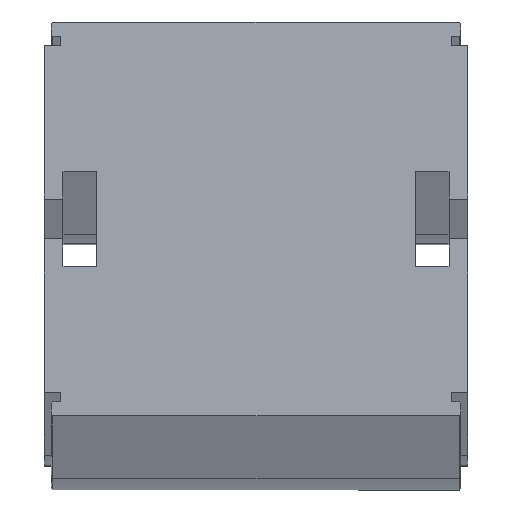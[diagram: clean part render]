
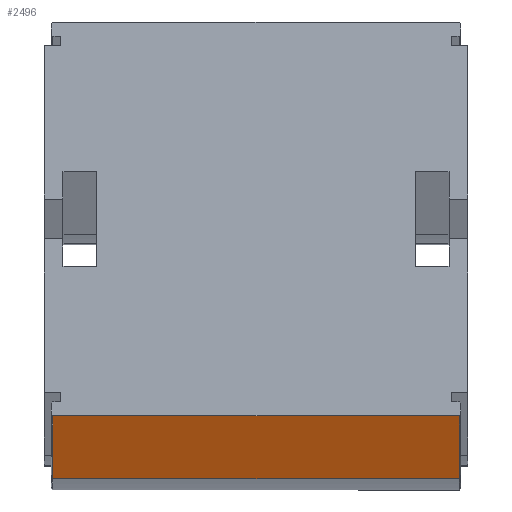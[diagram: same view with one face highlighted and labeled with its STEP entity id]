
A CAD part, top view. The second image highlights one B-rep face of the part: STEP entity #2496.
In plain terms, the highlighted planar face has unit normal (0, -0.996, 0.087).
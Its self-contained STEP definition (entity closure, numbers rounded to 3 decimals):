
#9 = DIRECTION ( 'NONE',  ( -1., 0., 0. ) ) ;
#113 = FACE_OUTER_BOUND ( 'NONE', #2317, .T. ) ;
#268 = DIRECTION ( 'NONE',  ( 0., 0.087, 0.996 ) ) ;
#269 = CARTESIAN_POINT ( 'NONE',  ( -43.15, -39.938, 197.238 ) ) ;
#364 = AXIS2_PLACEMENT_3D ( 'NONE', #2072, #2080, #2082 ) ;
#445 = EDGE_CURVE ( 'NONE', #2113, #2100, #2932, .T. ) ;
#536 = EDGE_CURVE ( 'NONE', #2203, #2113, #2870, .T. ) ;
#542 = EDGE_CURVE ( 'NONE', #2203, #2094, #2854, .T. ) ;
#560 = EDGE_CURVE ( 'NONE', #2094, #2100, #2825, .T. ) ;
#730 = CARTESIAN_POINT ( 'NONE',  ( -43.15, -26.864, 346.668 ) ) ;
#731 = DIRECTION ( 'NONE',  ( -1., 0., 0. ) ) ;
#1470 = CARTESIAN_POINT ( 'NONE',  ( -43.15, -26.864, 346.668 ) ) ;
#1483 = CARTESIAN_POINT ( 'NONE',  ( -43.15, -39.938, 197.238 ) ) ;
#1570 = CARTESIAN_POINT ( 'NONE',  ( 43.15, -39.938, 197.238 ) ) ;
#1741 = ORIENTED_EDGE ( 'NONE', *, *, #445, .F. ) ;
#1743 = ORIENTED_EDGE ( 'NONE', *, *, #560, .T. ) ;
#1745 = ORIENTED_EDGE ( 'NONE', *, *, #542, .T. ) ;
#1747 = ORIENTED_EDGE ( 'NONE', *, *, #536, .F. ) ;
#2072 = CARTESIAN_POINT ( 'NONE',  ( -43.15, -39.938, 197.238 ) ) ;
#2076 = PLANE ( 'NONE',  #364 ) ;
#2080 = DIRECTION ( 'NONE',  ( 0., 0.996, -0.087 ) ) ;
#2082 = DIRECTION ( 'NONE',  ( 0., 0.087, 0.996 ) ) ;
#2094 = VERTEX_POINT ( 'NONE', #3121 ) ;
#2100 = VERTEX_POINT ( 'NONE', #1470 ) ;
#2113 = VERTEX_POINT ( 'NONE', #1483 ) ;
#2203 = VERTEX_POINT ( 'NONE', #1570 ) ;
#2317 = EDGE_LOOP ( 'NONE', ( #1747, #1745, #1743, #1741 ) ) ;
#2496 = ADVANCED_FACE ( 'NONE', ( #113 ), #2076, .F. ) ;
#2822 = VECTOR ( 'NONE', #731, 1000. ) ;
#2825 = LINE ( 'NONE', #730, #2822 ) ;
#2850 = VECTOR ( 'NONE', #3100, 1000. ) ;
#2854 = LINE ( 'NONE', #3104, #2850 ) ;
#2861 = VECTOR ( 'NONE', #9, 1000. ) ;
#2870 = LINE ( 'NONE', #3108, #2861 ) ;
#2925 = VECTOR ( 'NONE', #268, 1000. ) ;
#2932 = LINE ( 'NONE', #269, #2925 ) ;
#3100 = DIRECTION ( 'NONE',  ( 0., 0.087, 0.996 ) ) ;
#3104 = CARTESIAN_POINT ( 'NONE',  ( 43.15, -39.938, 197.238 ) ) ;
#3108 = CARTESIAN_POINT ( 'NONE',  ( -43.15, -39.938, 197.238 ) ) ;
#3121 = CARTESIAN_POINT ( 'NONE',  ( 43.15, -26.864, 346.668 ) ) ;
